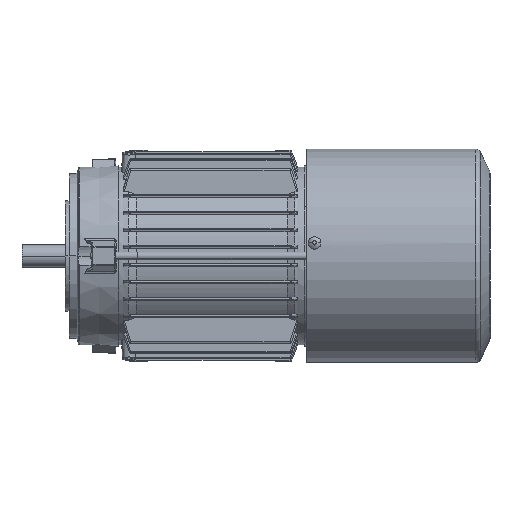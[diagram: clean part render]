
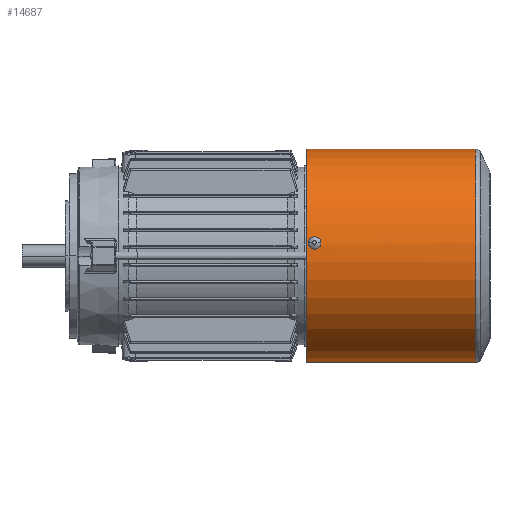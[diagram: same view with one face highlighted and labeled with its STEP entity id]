
A CAD part, front view. The second image highlights one B-rep face of the part: STEP entity #14687.
In plain terms, the highlighted cylindrical face has radius 68 mm (diameter 136 mm), a partial arc.
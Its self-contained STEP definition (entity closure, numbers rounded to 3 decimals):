
#296 = B_SPLINE_CURVE_WITH_KNOTS ( 'NONE', 3,
 ( #41665, #84932, #56134, #12915, #63442, #20176, #70700, #27472, #77975, #34743, #85250, #41976, #92548, #49199, #5957, #56436, #13226, #63754, #20499, #71027, #27792, #78301, #35066, #85573, #42293, #92856, #49525, #6268, #56756, #13544 ),
 .UNSPECIFIED., .F., .F.,
 ( 4, 2, 2, 2, 2, 2, 2, 2, 2, 2, 2, 2, 2, 2, 4 ),
 ( 0.003, 0.004, 0.004, 0.004, 0.005, 0.005, 0.005, 0.006, 0.006, 0.007, 0.008, 0.008, 0.009, 0.009, 0.009 ),
 .UNSPECIFIED. ) ;
#2311 = DIRECTION ( 'NONE',  ( -1., 0., 0. ) ) ;
#3821 = CARTESIAN_POINT ( 'NONE',  ( -68., 139.861, 0. ) ) ;
#4456 = CARTESIAN_POINT ( 'NONE',  ( -2., 111.632, 67.971 ) ) ;
#5375 = CARTESIAN_POINT ( 'NONE',  ( -0.886, 113.298, 67.994 ) ) ;
#5705 = CARTESIAN_POINT ( 'NONE',  ( 1.948, 112.024, 67.972 ) ) ;
#5957 = CARTESIAN_POINT ( 'NONE',  ( 0.519, 109.564, 67.998 ) ) ;
#6099 = EDGE_LOOP ( 'NONE', ( #65904, #34637, #68912, #40153 ) ) ;
#6268 = CARTESIAN_POINT ( 'NONE',  ( -1.987, 111.238, 67.971 ) ) ;
#12164 = DIRECTION ( 'NONE',  ( -1., 0., 0. ) ) ;
#12350 = CARTESIAN_POINT ( 'NONE',  ( -2., 111.5, 67.971 ) ) ;
#12670 = CARTESIAN_POINT ( 'NONE',  ( -0.263, 113.5, 68. ) ) ;
#12915 = CARTESIAN_POINT ( 'NONE',  ( 1.936, 110.981, 67.972 ) ) ;
#12979 = CARTESIAN_POINT ( 'NONE',  ( 2., 111.5, 67.971 ) ) ;
#13226 = CARTESIAN_POINT ( 'NONE',  ( 0.13, 109.5, 68. ) ) ;
#13544 = CARTESIAN_POINT ( 'NONE',  ( -2., 111.5, 67.971 ) ) ;
#14685 = EDGE_LOOP ( 'NONE', ( #31056, #68465 ) ) ;
#14687 = ADVANCED_FACE ( 'NONE', ( #63446, #25027 ), #58900, .T. ) ;
#16655 = AXIS2_PLACEMENT_3D ( 'NONE', #88881, #45587, #2311 ) ;
#18998 = VECTOR ( 'NONE', #54623, 1000. ) ;
#19609 = CARTESIAN_POINT ( 'NONE',  ( -1.936, 112.018, 67.972 ) ) ;
#19923 = CARTESIAN_POINT ( 'NONE',  ( 0.264, 113.487, 68. ) ) ;
#20176 = CARTESIAN_POINT ( 'NONE',  ( 1.798, 110.614, 67.976 ) ) ;
#20338 = LINE ( 'NONE', #37705, #56446 ) ;
#20499 = CARTESIAN_POINT ( 'NONE',  ( -0.525, 109.553, 67.998 ) ) ;
#20776 = EDGE_CURVE ( 'NONE', #28435, #52346, #44166, .T. ) ;
#22130 = CARTESIAN_POINT ( 'NONE',  ( 0., 116.5, 0. ) ) ;
#23544 = AXIS2_PLACEMENT_3D ( 'NONE', #22130, #72658, #29407 ) ;
#25027 = FACE_OUTER_BOUND ( 'NONE', #6099, .T. ) ;
#26918 = CARTESIAN_POINT ( 'NONE',  ( -1.797, 112.387, 67.976 ) ) ;
#27221 = CARTESIAN_POINT ( 'NONE',  ( 0.646, 113.397, 67.997 ) ) ;
#27472 = CARTESIAN_POINT ( 'NONE',  ( 1.59, 110.28, 67.981 ) ) ;
#27792 = CARTESIAN_POINT ( 'NONE',  ( -1.23, 109.901, 67.989 ) ) ;
#28435 = VERTEX_POINT ( 'NONE', #36436 ) ;
#29407 = DIRECTION ( 'NONE',  ( -1., 0., 0. ) ) ;
#30414 = DIRECTION ( 'NONE',  ( 0., 1., 0. ) ) ;
#31056 = ORIENTED_EDGE ( 'NONE', *, *, #20776, .T. ) ;
#34175 = CARTESIAN_POINT ( 'NONE',  ( -1.591, 112.719, 67.981 ) ) ;
#34479 = CARTESIAN_POINT ( 'NONE',  ( 1.003, 113.235, 67.993 ) ) ;
#34637 = ORIENTED_EDGE ( 'NONE', *, *, #62135, .T. ) ;
#34743 = CARTESIAN_POINT ( 'NONE',  ( 1.321, 109.992, 67.987 ) ) ;
#35066 = CARTESIAN_POINT ( 'NONE',  ( -1.591, 110.281, 67.981 ) ) ;
#36436 = CARTESIAN_POINT ( 'NONE',  ( -2., 111.5, 67.971 ) ) ;
#37705 = CARTESIAN_POINT ( 'NONE',  ( 68., 139.861, 0. ) ) ;
#38383 = VERTEX_POINT ( 'NONE', #65801 ) ;
#40153 = ORIENTED_EDGE ( 'NONE', *, *, #71277, .F. ) ;
#41424 = CARTESIAN_POINT ( 'NONE',  ( -1.322, 113.007, 67.987 ) ) ;
#41665 = CARTESIAN_POINT ( 'NONE',  ( 2., 111.5, 67.971 ) ) ;
#41726 = CARTESIAN_POINT ( 'NONE',  ( 1.323, 113.005, 67.987 ) ) ;
#41976 = CARTESIAN_POINT ( 'NONE',  ( 1.003, 109.765, 67.993 ) ) ;
#42293 = CARTESIAN_POINT ( 'NONE',  ( -1.797, 110.613, 67.976 ) ) ;
#44166 = B_SPLINE_CURVE_WITH_KNOTS ( 'NONE', 3,
 ( #12350, #4456, #55267, #19609, #70135, #26918, #77411, #34175, #84676, #41424, #91968, #48639, #5375, #55871, #12670, #63184, #19923, #70445, #27221, #77735, #34479, #85005, #41726, #92284, #48958, #5705, #56199, #12979 ),
 .UNSPECIFIED., .F., .F.,
 ( 4, 2, 2, 2, 2, 2, 2, 2, 2, 2, 2, 2, 2, 4 ),
 ( 0.009, 0.01, 0.01, 0.011, 0.011, 0.011, 0.012, 0.013, 0.013, 0.013, 0.014, 0.014, 0.015, 0.016 ),
 .UNSPECIFIED. ) ;
#45587 = DIRECTION ( 'NONE',  ( 0., 1., 0. ) ) ;
#46336 = CIRCLE ( 'NONE', #16655, 68. ) ;
#48639 = CARTESIAN_POINT ( 'NONE',  ( -1.003, 113.235, 67.993 ) ) ;
#48958 = CARTESIAN_POINT ( 'NONE',  ( 1.748, 112.505, 67.978 ) ) ;
#49170 = CARTESIAN_POINT ( 'NONE',  ( -68., 9.011, 0. ) ) ;
#49199 = CARTESIAN_POINT ( 'NONE',  ( 0.643, 109.602, 67.997 ) ) ;
#49525 = CARTESIAN_POINT ( 'NONE',  ( -1.936, 110.982, 67.972 ) ) ;
#52346 = VERTEX_POINT ( 'NONE', #55768 ) ;
#54623 = DIRECTION ( 'NONE',  ( 0., 1., 0. ) ) ;
#55267 = CARTESIAN_POINT ( 'NONE',  ( -1.987, 111.762, 67.971 ) ) ;
#55402 = EDGE_CURVE ( 'NONE', #52346, #28435, #296, .T. ) ;
#55768 = CARTESIAN_POINT ( 'NONE',  ( 2., 111.5, 67.971 ) ) ;
#55871 = CARTESIAN_POINT ( 'NONE',  ( -0.525, 113.447, 67.998 ) ) ;
#56134 = CARTESIAN_POINT ( 'NONE',  ( 1.987, 111.237, 67.971 ) ) ;
#56199 = CARTESIAN_POINT ( 'NONE',  ( 2., 111.761, 67.971 ) ) ;
#56436 = CARTESIAN_POINT ( 'NONE',  ( 0.262, 109.513, 68. ) ) ;
#56446 = VECTOR ( 'NONE', #30414, 1000. ) ;
#56756 = CARTESIAN_POINT ( 'NONE',  ( -2., 111.368, 67.971 ) ) ;
#58900 = CYLINDRICAL_SURFACE ( 'NONE', #79767, 68. ) ;
#60053 = VERTEX_POINT ( 'NONE', #64515 ) ;
#61792 = CIRCLE ( 'NONE', #23544, 68. ) ;
#62135 = EDGE_CURVE ( 'NONE', #38383, #89995, #20338, .T. ) ;
#62705 = CARTESIAN_POINT ( 'NONE',  ( 0., 139.861, 0. ) ) ;
#63184 = CARTESIAN_POINT ( 'NONE',  ( 0.134, 113.5, 68. ) ) ;
#63442 = CARTESIAN_POINT ( 'NONE',  ( 1.898, 110.856, 67.974 ) ) ;
#63446 = FACE_BOUND ( 'NONE', #14685, .T. ) ;
#63754 = CARTESIAN_POINT ( 'NONE',  ( -0.262, 109.5, 68. ) ) ;
#64215 = LINE ( 'NONE', #3821, #18998 ) ;
#64515 = CARTESIAN_POINT ( 'NONE',  ( -68., 116.5, 0. ) ) ;
#65801 = CARTESIAN_POINT ( 'NONE',  ( 68., 9.011, 0. ) ) ;
#65904 = ORIENTED_EDGE ( 'NONE', *, *, #78836, .T. ) ;
#68465 = ORIENTED_EDGE ( 'NONE', *, *, #55402, .T. ) ;
#68912 = ORIENTED_EDGE ( 'NONE', *, *, #73337, .F. ) ;
#69954 = DIRECTION ( 'NONE',  ( 0., 1., 0. ) ) ;
#70135 = CARTESIAN_POINT ( 'NONE',  ( -1.898, 112.145, 67.974 ) ) ;
#70445 = CARTESIAN_POINT ( 'NONE',  ( 0.519, 113.436, 67.998 ) ) ;
#70700 = CARTESIAN_POINT ( 'NONE',  ( 1.735, 110.497, 67.978 ) ) ;
#71027 = CARTESIAN_POINT ( 'NONE',  ( -1.006, 109.752, 67.993 ) ) ;
#71277 = EDGE_CURVE ( 'NONE', #73669, #60053, #64215, .T. ) ;
#72232 = CARTESIAN_POINT ( 'NONE',  ( 68., 116.5, 0. ) ) ;
#72658 = DIRECTION ( 'NONE',  ( 0., 1., 0. ) ) ;
#73337 = EDGE_CURVE ( 'NONE', #60053, #89995, #61792, .T. ) ;
#73669 = VERTEX_POINT ( 'NONE', #49170 ) ;
#77411 = CARTESIAN_POINT ( 'NONE',  ( -1.736, 112.502, 67.978 ) ) ;
#77735 = CARTESIAN_POINT ( 'NONE',  ( 0.888, 113.297, 67.994 ) ) ;
#77975 = CARTESIAN_POINT ( 'NONE',  ( 1.507, 110.179, 67.983 ) ) ;
#78301 = CARTESIAN_POINT ( 'NONE',  ( -1.506, 110.178, 67.983 ) ) ;
#78836 = EDGE_CURVE ( 'NONE', #73669, #38383, #46336, .T. ) ;
#79767 = AXIS2_PLACEMENT_3D ( 'NONE', #62705, #69954, #12164 ) ;
#84676 = CARTESIAN_POINT ( 'NONE',  ( -1.506, 112.822, 67.983 ) ) ;
#84932 = CARTESIAN_POINT ( 'NONE',  ( 2., 111.37, 67.971 ) ) ;
#85005 = CARTESIAN_POINT ( 'NONE',  ( 1.22, 113.09, 67.989 ) ) ;
#85250 = CARTESIAN_POINT ( 'NONE',  ( 1.219, 109.909, 67.989 ) ) ;
#85573 = CARTESIAN_POINT ( 'NONE',  ( -1.736, 110.498, 67.978 ) ) ;
#88881 = CARTESIAN_POINT ( 'NONE',  ( 0., 9.011, 0. ) ) ;
#89995 = VERTEX_POINT ( 'NONE', #72232 ) ;
#91968 = CARTESIAN_POINT ( 'NONE',  ( -1.221, 113.089, 67.989 ) ) ;
#92284 = CARTESIAN_POINT ( 'NONE',  ( 1.6, 112.729, 67.981 ) ) ;
#92548 = CARTESIAN_POINT ( 'NONE',  ( 0.886, 109.702, 67.994 ) ) ;
#92856 = CARTESIAN_POINT ( 'NONE',  ( -1.898, 110.855, 67.974 ) ) ;
